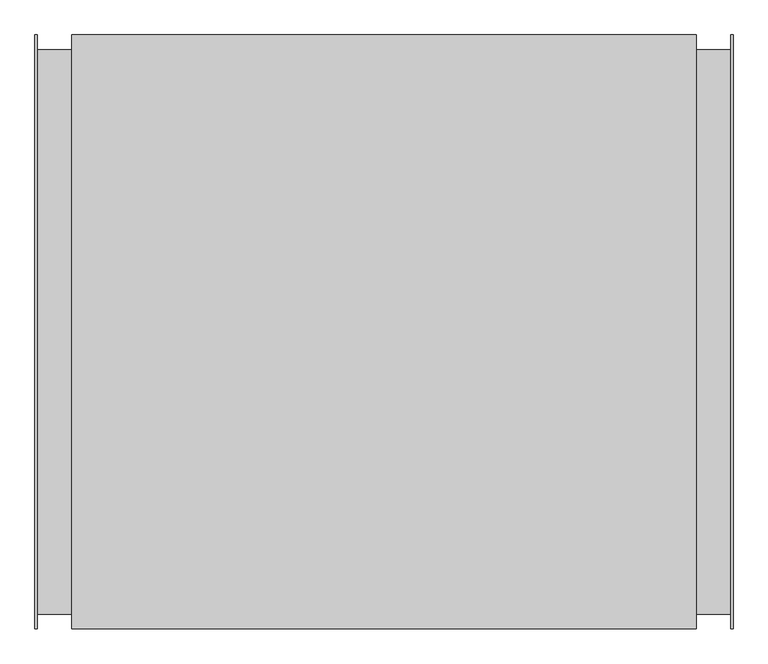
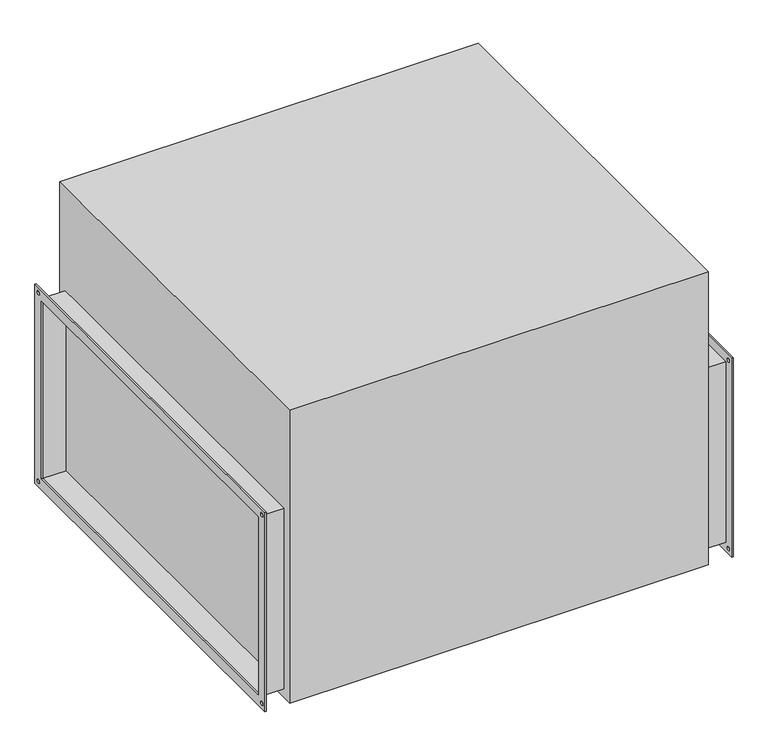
"""IFC4 building model written with IfcOpenShell, lengths in millimetres: proxy geometry, СВ_Вентилятор_КанальныйПрямоугольный_200-1000_SVP-SVPH : SVPH-1000x500/630.4D."""

from ifc_helpers import new_model, si_unit, point, frame, frame_2d, origin, place, context, project, spatial, polyline, circle_curve, trimmed, segment, composite_curve, outline, extrude, source, transform, mapped, element, save


def mechanical_equipment_d871949b(model_context):
    return source(origin(), model_context, "Body", "SweptSolid", [
        extrude(outline(polyline([(530.0, 280.0), (530.0, -280.0), (-530.0, -280.0), (-530.0, 280.0), (530.0, 280.0)]), holes=[polyline([(500.0, 250.0), (-500.0, 250.0), (-500.0, -250.0), (500.0, -250.0), (500.0, 250.0)]), composite_curve([segment(trimmed(circle_curve(frame_2d((515.0, 265.0)), 5.0), [point((510.0, 265.0))], [point((520.0, 265.0))], True, "CARTESIAN"), True, "CONTINUOUS"), segment(trimmed(circle_curve(frame_2d((515.0, 265.0)), 5.0), [point((520.0, 265.0))], [point((510.0, 265.0))], True, "CARTESIAN"), True, "CONTINUOUS")], self_intersect=False), composite_curve([segment(trimmed(circle_curve(frame_2d((-515.0, 265.0)), 5.0), [point((-520.0, 265.0))], [point((-510.0, 265.0))], True, "CARTESIAN"), True, "CONTINUOUS"), segment(trimmed(circle_curve(frame_2d((-515.0, 265.0)), 5.0), [point((-510.0, 265.0))], [point((-520.0, 265.0))], True, "CARTESIAN"), True, "CONTINUOUS")], self_intersect=False), composite_curve([segment(trimmed(circle_curve(frame_2d((-515.0, -265.0)), 5.0), [point((-520.0, -265.0))], [point((-510.0, -265.0))], True, "CARTESIAN"), True, "CONTINUOUS"), segment(trimmed(circle_curve(frame_2d((-515.0, -265.0)), 5.0), [point((-510.0, -265.0))], [point((-520.0, -265.0))], True, "CARTESIAN"), True, "CONTINUOUS")], self_intersect=False), composite_curve([segment(trimmed(circle_curve(frame_2d((515.0, -265.0)), 5.0), [point((510.0, -265.0))], [point((520.0, -265.0))], True, "CARTESIAN"), True, "CONTINUOUS"), segment(trimmed(circle_curve(frame_2d((515.0, -265.0)), 5.0), [point((520.0, -265.0))], [point((510.0, -265.0))], True, "CARTESIAN"), True, "CONTINUOUS")], self_intersect=False)]), frame((619.0, 0.0, 0.0), z_axis=(1.0, 0.0, 0.0), x_axis=(0.0, 1.0, 0.0)), (0.0, 0.0, 1.0), 4.0),
        extrude(outline(polyline([(-530.0, 280.0), (530.0, 280.0), (530.0, -280.0), (-530.0, -280.0), (-530.0, 280.0)]), holes=[polyline([(-500.0, 250.0), (-500.0, -250.0), (500.0, -250.0), (500.0, 250.0), (-500.0, 250.0)]), composite_curve([segment(trimmed(circle_curve(frame_2d((515.0, 265.0)), 5.0), [point((510.0, 265.0))], [point((520.0, 265.0))], True, "CARTESIAN"), True, "CONTINUOUS"), segment(trimmed(circle_curve(frame_2d((515.0, 265.0)), 5.0), [point((520.0, 265.0))], [point((510.0, 265.0))], True, "CARTESIAN"), True, "CONTINUOUS")], self_intersect=False), composite_curve([segment(trimmed(circle_curve(frame_2d((-515.0, 265.0)), 5.0), [point((-520.0, 265.0))], [point((-510.0, 265.0))], True, "CARTESIAN"), True, "CONTINUOUS"), segment(trimmed(circle_curve(frame_2d((-515.0, 265.0)), 5.0), [point((-510.0, 265.0))], [point((-520.0, 265.0))], True, "CARTESIAN"), True, "CONTINUOUS")], self_intersect=False), composite_curve([segment(trimmed(circle_curve(frame_2d((-515.0, -265.0)), 5.0), [point((-520.0, -265.0))], [point((-510.0, -265.0))], True, "CARTESIAN"), True, "CONTINUOUS"), segment(trimmed(circle_curve(frame_2d((-515.0, -265.0)), 5.0), [point((-510.0, -265.0))], [point((-520.0, -265.0))], True, "CARTESIAN"), True, "CONTINUOUS")], self_intersect=False), composite_curve([segment(trimmed(circle_curve(frame_2d((515.0, -265.0)), 5.0), [point((510.0, -265.0))], [point((520.0, -265.0))], True, "CARTESIAN"), True, "CONTINUOUS"), segment(trimmed(circle_curve(frame_2d((515.0, -265.0)), 5.0), [point((520.0, -265.0))], [point((510.0, -265.0))], True, "CARTESIAN"), True, "CONTINUOUS")], self_intersect=False)]), frame((-623.0, 0.0, 0.0), z_axis=(1.0, 0.0, 0.0), x_axis=(0.0, 1.0, 0.0)), (0.0, 0.0, 1.0), 4.0),
        extrude(outline(polyline([(557.0, 530.0), (557.0, -530.0), (-557.0, -530.0), (-557.0, 530.0), (557.0, 530.0)])), frame((0.0, 0.0, -280.0), z_axis=(0.0, 0.0, 1.0), x_axis=(1.0, 0.0, 0.0)), (0.0, 0.0, 1.0), 825.0),
        extrude(outline(polyline([(-504.0, 254.0), (504.0, 254.0), (504.0, -254.0), (-504.0, -254.0), (-504.0, 254.0)]), holes=[polyline([(500.0, 250.0), (-500.0, 250.0), (-500.0, -250.0), (500.0, -250.0), (500.0, 250.0)])]), frame((-619.0, 0.0, 0.0), z_axis=(1.0, 0.0, 0.0), x_axis=(0.0, 1.0, 0.0)), (0.0, 0.0, 1.0), 62.0),
        extrude(outline(polyline([(-504.0, 254.0), (504.0, 254.0), (504.0, -254.0), (-504.0, -254.0), (-504.0, 254.0)]), holes=[polyline([(500.0, 250.0), (-500.0, 250.0), (-500.0, -250.0), (500.0, -250.0), (500.0, 250.0)])]), frame((557.0, 0.0, 0.0), z_axis=(1.0, 0.0, 0.0), x_axis=(0.0, 1.0, 0.0)), (0.0, 0.0, 1.0), 62.0),
    ])


if __name__ == "__main__":
    model = new_model("IFC4")
    model_context = context("Model", 3, world=origin())
    ifc_project = project(units=[si_unit("LENGTHUNIT", "METRE", prefix="MILLI")], contexts=[model_context])
    site = spatial("IfcSite", under=ifc_project)
    building = spatial("IfcBuilding", under=site)
    placement = place(None, origin())
    mechanical_equipment_shape = mechanical_equipment_d871949b(model_context)
    element("IfcBuildingElementProxy", 1, Name="СВ_Вентилятор_КанальныйПрямоугольный_200-1000_SVP-SVPH : SVPH-1000x500/630.4D", ObjectType="СВ_Вентилятор_КанальныйПрямоугольный_200-1000_SVP-SVPH : SVPH-1000x500/630.4D", at=placement, inside=building, context=model_context, shape_type="MappedRepresentation", body=[
        mapped(mechanical_equipment_shape, transform((0.0, 0.0, 0.0), x_axis=(1.0, 0.0, 0.0), y_axis=(0.0, 1.0, 0.0), z_axis=(0.0, 0.0, 1.0))),
    ])
    save(model, "model.ifc")
